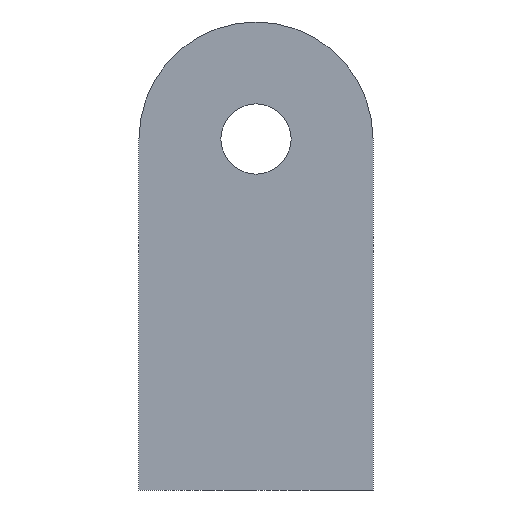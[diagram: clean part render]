
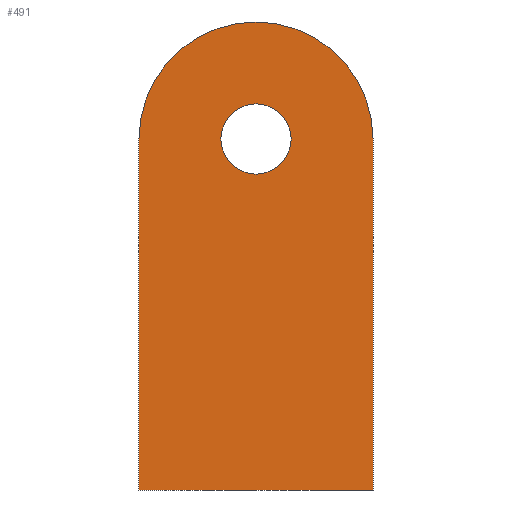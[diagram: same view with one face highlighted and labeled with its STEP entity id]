
A CAD part, front view. The second image highlights one B-rep face of the part: STEP entity #491.
In plain terms, the highlighted planar face has unit normal (0, -1, 0).
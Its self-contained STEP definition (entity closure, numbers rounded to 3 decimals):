
#1 = DIRECTION ( 'NONE',  ( 0., 0., -1. ) ) ;
#10 = ORIENTED_EDGE ( 'NONE', *, *, #15, .F. ) ;
#11 = ORIENTED_EDGE ( 'NONE', *, *, #435, .F. ) ;
#15 = EDGE_CURVE ( 'NONE', #488, #466, #431, .T. ) ;
#22 = CARTESIAN_POINT ( 'NONE',  ( 5., 0., 20. ) ) ;
#24 = ORIENTED_EDGE ( 'NONE', *, *, #544, .T. ) ;
#42 = EDGE_CURVE ( 'NONE', #306, #81, #232, .T. ) ;
#43 = CARTESIAN_POINT ( 'NONE',  ( 10., 0., 0. ) ) ;
#61 = DIRECTION ( 'NONE',  ( 0., 0., -1. ) ) ;
#62 = FACE_OUTER_BOUND ( 'NONE', #119, .T. ) ;
#75 = CIRCLE ( 'NONE', #509, 5. ) ;
#79 = EDGE_CURVE ( 'NONE', #466, #488, #536, .T. ) ;
#81 = VERTEX_POINT ( 'NONE', #315 ) ;
#85 = ORIENTED_EDGE ( 'NONE', *, *, #42, .T. ) ;
#88 = LINE ( 'NONE', #104, #127 ) ;
#104 = CARTESIAN_POINT ( 'NONE',  ( 0., 0., 0. ) ) ;
#107 = DIRECTION ( 'NONE',  ( 0., 0., 1. ) ) ;
#116 = DIRECTION ( 'NONE',  ( 0., -1., 0. ) ) ;
#119 = EDGE_LOOP ( 'NONE', ( #11, #700, #24, #85, #577 ) ) ;
#123 = DIRECTION ( 'NONE',  ( 0., -1., 0. ) ) ;
#127 = VECTOR ( 'NONE', #698, 1000. ) ;
#154 = LINE ( 'NONE', #457, #197 ) ;
#192 = DIRECTION ( 'NONE',  ( 0., 0., -1. ) ) ;
#197 = VECTOR ( 'NONE', #756, 1000. ) ;
#232 = LINE ( 'NONE', #247, #236 ) ;
#236 = VECTOR ( 'NONE', #1, 1000. ) ;
#237 = VERTEX_POINT ( 'NONE', #22 ) ;
#239 = AXIS2_PLACEMENT_3D ( 'NONE', #639, #529, #107 ) ;
#243 = PLANE ( 'NONE',  #720 ) ;
#247 = CARTESIAN_POINT ( 'NONE',  ( 0., 0., 20. ) ) ;
#282 = EDGE_LOOP ( 'NONE', ( #10, #583 ) ) ;
#286 = CARTESIAN_POINT ( 'NONE',  ( 10., 0., 15. ) ) ;
#294 = CARTESIAN_POINT ( 'NONE',  ( 0., 0., 20. ) ) ;
#295 = AXIS2_PLACEMENT_3D ( 'NONE', #423, #116, #61 ) ;
#299 = FACE_BOUND ( 'NONE', #282, .T. ) ;
#306 = VERTEX_POINT ( 'NONE', #428 ) ;
#310 = CARTESIAN_POINT ( 'NONE',  ( 5., 0., 15. ) ) ;
#315 = CARTESIAN_POINT ( 'NONE',  ( 0., 0., 0. ) ) ;
#358 = CARTESIAN_POINT ( 'NONE',  ( 5., 0., 15. ) ) ;
#363 = CARTESIAN_POINT ( 'NONE',  ( 5., 0., 16.5 ) ) ;
#372 = CIRCLE ( 'NONE', #239, 5. ) ;
#413 = AXIS2_PLACEMENT_3D ( 'NONE', #310, #726, #192 ) ;
#422 = DIRECTION ( 'NONE',  ( 0., 1., 0. ) ) ;
#423 = CARTESIAN_POINT ( 'NONE',  ( 5., 0., 15. ) ) ;
#428 = CARTESIAN_POINT ( 'NONE',  ( 0., 0., 15. ) ) ;
#431 = CIRCLE ( 'NONE', #295, 1.5 ) ;
#434 = EDGE_CURVE ( 'NONE', #456, #237, #372, .T. ) ;
#435 = EDGE_CURVE ( 'NONE', #456, #449, #154, .T. ) ;
#449 = VERTEX_POINT ( 'NONE', #43 ) ;
#456 = VERTEX_POINT ( 'NONE', #286 ) ;
#457 = CARTESIAN_POINT ( 'NONE',  ( 10., 0., 20. ) ) ;
#466 = VERTEX_POINT ( 'NONE', #363 ) ;
#488 = VERTEX_POINT ( 'NONE', #597 ) ;
#491 = ADVANCED_FACE ( 'NONE', ( #299, #62 ), #243, .F. ) ;
#509 = AXIS2_PLACEMENT_3D ( 'NONE', #358, #123, #603 ) ;
#529 = DIRECTION ( 'NONE',  ( 0., -1., 0. ) ) ;
#536 = CIRCLE ( 'NONE', #413, 1.5 ) ;
#544 = EDGE_CURVE ( 'NONE', #237, #306, #75, .T. ) ;
#577 = ORIENTED_EDGE ( 'NONE', *, *, #724, .T. ) ;
#583 = ORIENTED_EDGE ( 'NONE', *, *, #79, .F. ) ;
#593 = DIRECTION ( 'NONE',  ( 0., 0., 1. ) ) ;
#597 = CARTESIAN_POINT ( 'NONE',  ( 5., 0., 13.5 ) ) ;
#603 = DIRECTION ( 'NONE',  ( 0., 0., 1. ) ) ;
#639 = CARTESIAN_POINT ( 'NONE',  ( 5., 0., 15. ) ) ;
#698 = DIRECTION ( 'NONE',  ( 1., 0., 0. ) ) ;
#700 = ORIENTED_EDGE ( 'NONE', *, *, #434, .T. ) ;
#720 = AXIS2_PLACEMENT_3D ( 'NONE', #294, #422, #593 ) ;
#724 = EDGE_CURVE ( 'NONE', #81, #449, #88, .T. ) ;
#726 = DIRECTION ( 'NONE',  ( 0., -1., 0. ) ) ;
#756 = DIRECTION ( 'NONE',  ( 0., 0., -1. ) ) ;
